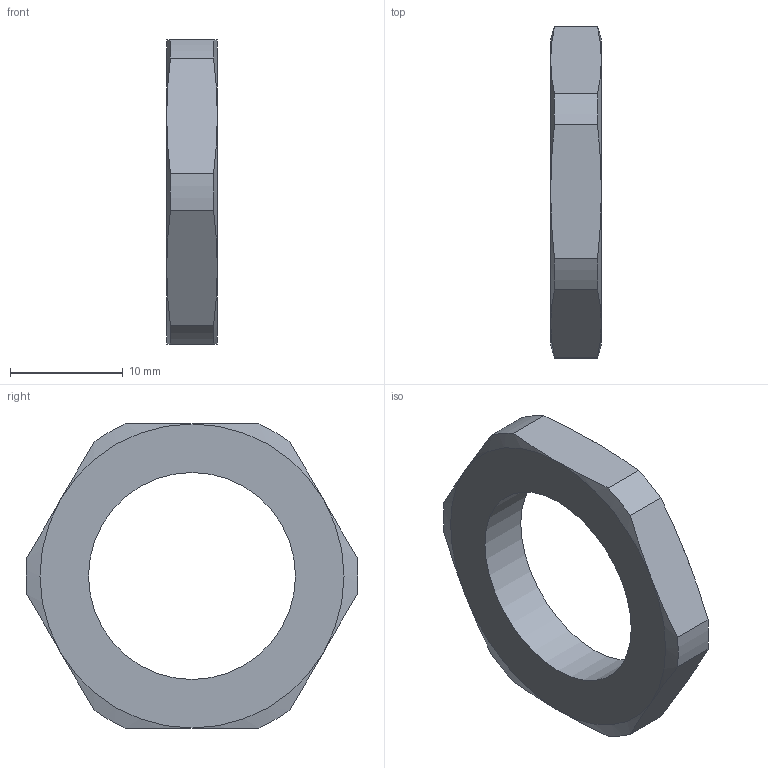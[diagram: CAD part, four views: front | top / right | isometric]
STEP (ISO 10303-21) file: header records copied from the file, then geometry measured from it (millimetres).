
FILE_DESCRIPTION( ( 'STEP AP203' ), '1' );
FILE_NAME( 'C:/Temp/Ganter_Step_05_03_2020/data/3_1/gn909_5/Flat St. Steel-Hexagonal nut GN 909.5-M20x1,5.stp', '2020-03-12T09:07:22', ( 'License CC BY-ND 4.0' ), ( 'CADENAS' ), ' ', 'PARTsolutions', ' ' );
FILE_SCHEMA( ( 'CONFIG_CONTROL_DESIGN' ) );
Length unit declared in the file: millimetre
Products named in the file (1): _Flat St. Steel-Hexagonal nut GN 909.5-M20x1,5
Bounding box: 4.5 x 29.48 x 27 mm (x, y, z)
Volume: 1598.8 mm3; surface area: 1358.6 mm2
Topology: 1 solids, 1 shells, 27 faces, 63 edges, 38 vertices
Faces by surface type: cone 12, plane 8, cylinder 7
Full cylindrical faces by diameter (mm): 18.376 x1
Entity records: 834 total; most frequent: CARTESIAN_POINT 200, ORIENTED_EDGE 124, DIRECTION 120, EDGE_CURVE 62, AXIS2_PLACEMENT_3D 54, VERTEX_POINT 38, EDGE_LOOP 30, FACE_OUTER_BOUND 28
